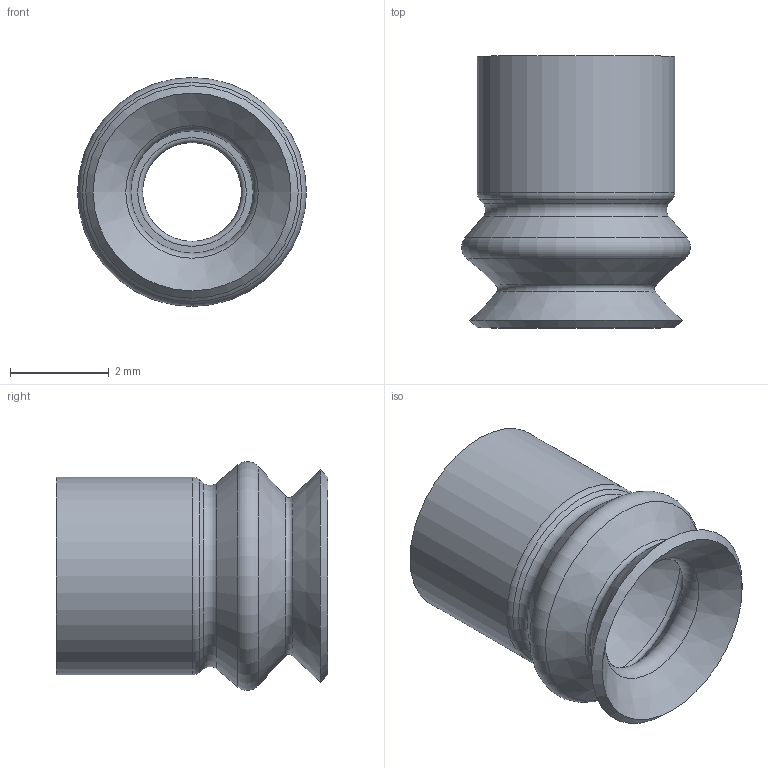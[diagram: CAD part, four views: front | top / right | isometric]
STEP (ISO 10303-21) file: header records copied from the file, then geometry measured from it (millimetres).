
FILE_DESCRIPTION(('STEP AP203'),'1');
FILE_NAME('_.stp','2024-06-11T23:48:40',(' '),(' '),'Spatial InterOp 3D',' ',' ');
FILE_SCHEMA(('CONFIG_CONTROL_DESIGN'));
Length unit declared in the file: millimetre
Products named in the file (1): 1
Bounding box: 4.63 x 5.5 x 4.63 mm (x, y, z)
Volume: 34 mm3; surface area: 148.8 mm2
Topology: 1 solids, 1 shells, 25 faces, 62 edges, 39 vertices
Faces by surface type: torus 11, cone 9, cylinder 3, plane 2
Full cylindrical faces by diameter (mm): 2 x1, 3 x1, 4 x1
Entity records: 552 total; most frequent: DIRECTION 102, CARTESIAN_POINT 76, AXIS2_PLACEMENT_3D 51, EDGE_LOOP 50, ORIENTED_EDGE 50, FACE_OUTER_BOUND 39, ADVANCED_FACE 25, EDGE_CURVE 25
